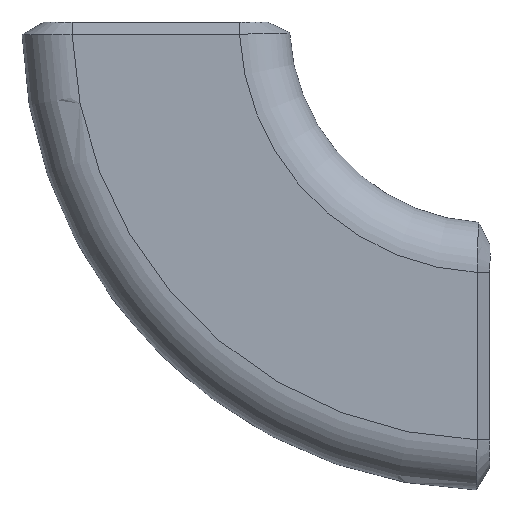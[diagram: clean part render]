
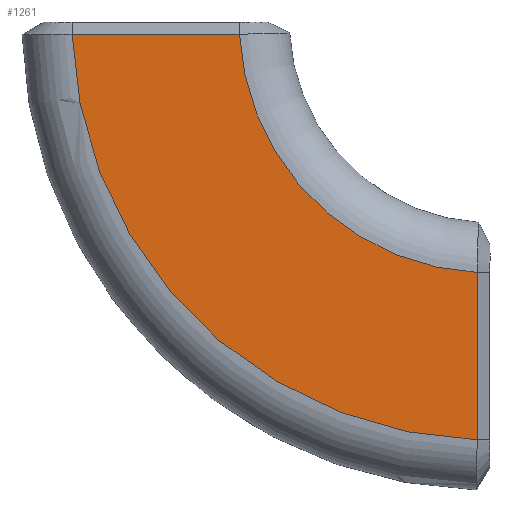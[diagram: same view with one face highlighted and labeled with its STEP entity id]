
A CAD part, left-side view. The second image highlights one B-rep face of the part: STEP entity #1261.
In plain terms, the highlighted planar face has unit normal (-1, 0, 0).
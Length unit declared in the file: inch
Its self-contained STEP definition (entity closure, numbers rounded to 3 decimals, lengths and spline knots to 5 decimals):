
#305=CARTESIAN_POINT('',(-0.75,-1.80283,-2.34264));
#306=VERTEX_POINT('',#305);
#359=CARTESIAN_POINT('',(-0.75,-1.80283,-1.4044));
#360=VERTEX_POINT('',#359);
#368=CARTESIAN_POINT('',(-0.75,-1.80283,-1.4044));
#369=CARTESIAN_POINT('',(-0.75,-1.80283,-1.71644));
#370=CARTESIAN_POINT('',(-0.75,-1.80283,-2.03076));
#371=CARTESIAN_POINT('',(-0.75,-1.80283,-2.34264));
#372=B_SPLINE_CURVE_WITH_KNOTS('',3,(#368,#369,#370,#371),.UNSPECIFIED.,.F.,.U.,(4,4),(-8.31553,-5.93284),.UNSPECIFIED.);
#373=EDGE_CURVE('',#360,#306,#372,.T.);
#565=CARTESIAN_POINT('',(-0.75,-0.47041,-0.06822));
#566=VERTEX_POINT('',#565);
#583=CARTESIAN_POINT('',(-0.75,-1.875,0.0));
#584=DIRECTION('',(-1.0,0.0,0.0));
#585=DIRECTION('',(0.0,1.0,0.0));
#586=AXIS2_PLACEMENT_3D('',#583,#584,#585);
#587=CIRCLE('',#586,1.40625);
#588=EDGE_CURVE('',#566,#360,#587,.T.);
#878=CARTESIAN_POINT('',(-0.75,0.46776,-0.06822));
#879=VERTEX_POINT('',#878);
#959=CARTESIAN_POINT('',(-0.75,0.46776,-0.06822));
#960=CARTESIAN_POINT('',(-0.75,0.15589,-0.06822));
#961=CARTESIAN_POINT('',(-0.75,-0.1584,-0.06822));
#962=CARTESIAN_POINT('',(-0.75,-0.47041,-0.06822));
#963=B_SPLINE_CURVE_WITH_KNOTS('',3,(#959,#960,#961,#962),.UNSPECIFIED.,.F.,.U.,(4,4),(3.00813,5.39061),.UNSPECIFIED.);
#964=EDGE_CURVE('',#879,#566,#963,.T.);
#1244=CARTESIAN_POINT('',(-0.75,0.,0.0));
#1245=DIRECTION('',(-1.0,0.0,0.0));
#1246=DIRECTION('',(0.0,0.0,1.0));
#1247=AXIS2_PLACEMENT_3D('',#1244,#1245,#1246);
#1248=PLANE('',#1247);
#1249=ORIENTED_EDGE('',*,*,#373,.F.);
#1250=ORIENTED_EDGE('',*,*,#588,.F.);
#1251=ORIENTED_EDGE('',*,*,#964,.F.);
#1252=CARTESIAN_POINT('',(-0.75,-1.875,0.0));
#1253=DIRECTION('',(-1.0,0.0,0.0));
#1254=DIRECTION('',(0.0,1.0,0.0));
#1255=AXIS2_PLACEMENT_3D('',#1252,#1253,#1254);
#1256=CIRCLE('',#1255,2.34375);
#1257=EDGE_CURVE('',#879,#306,#1256,.T.);
#1258=ORIENTED_EDGE('',*,*,#1257,.T.);
#1259=EDGE_LOOP('',(#1249,#1250,#1251,#1258));
#1260=FACE_OUTER_BOUND('',#1259,.T.);
#1261=ADVANCED_FACE('',(#1260),#1248,.T.);
